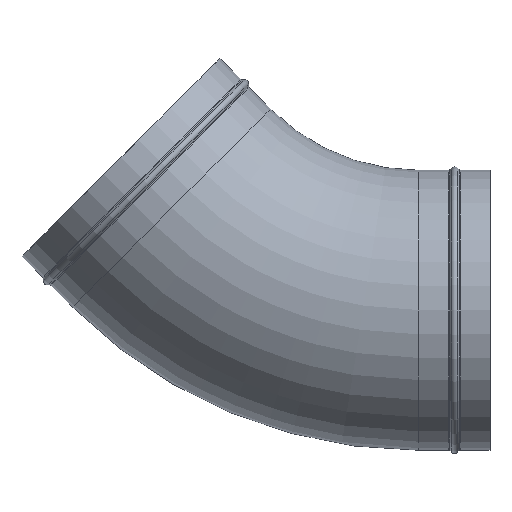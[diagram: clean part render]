
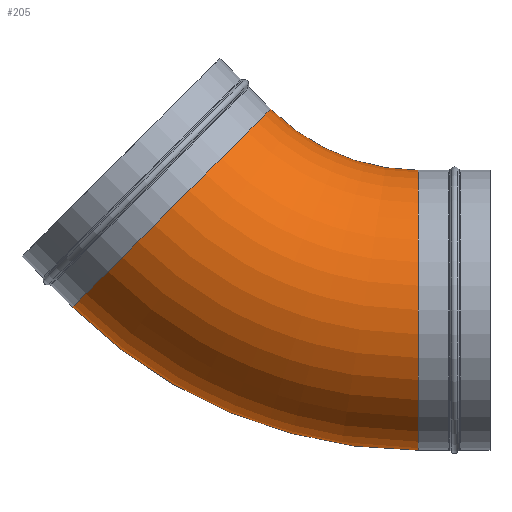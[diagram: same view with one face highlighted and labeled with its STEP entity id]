
A CAD part, top view. The second image highlights one B-rep face of the part: STEP entity #205.
In plain terms, the highlighted toroidal (fillet/blend) face has major radius 340 mm and minor radius 136.5 mm.
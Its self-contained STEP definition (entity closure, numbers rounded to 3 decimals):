
#205=ADVANCED_FACE('',(#295),#267,.T.);
#267=TOROIDAL_SURFACE('',#994,340.,136.5);
#295=FACE_OUTER_BOUND('',#355,.T.);
#355=EDGE_LOOP('',(#419,#420,#421,#422,#423,#424));
#419=ORIENTED_EDGE('',*,*,#755,.T.);
#420=ORIENTED_EDGE('',*,*,#756,.T.);
#421=ORIENTED_EDGE('',*,*,#757,.F.);
#422=ORIENTED_EDGE('',*,*,#758,.F.);
#423=ORIENTED_EDGE('',*,*,#759,.F.);
#424=ORIENTED_EDGE('',*,*,#760,.T.);
#683=VERTEX_POINT('',#1510);
#684=VERTEX_POINT('',#1511);
#685=VERTEX_POINT('',#1513);
#686=VERTEX_POINT('',#1515);
#687=VERTEX_POINT('',#1517);
#688=VERTEX_POINT('',#1519);
#755=EDGE_CURVE('',#683,#684,#887,.T.);
#756=EDGE_CURVE('',#684,#685,#888,.T.);
#757=EDGE_CURVE('',#686,#685,#889,.T.);
#758=EDGE_CURVE('',#687,#686,#890,.T.);
#759=EDGE_CURVE('',#688,#687,#891,.T.);
#760=EDGE_CURVE('',#688,#683,#892,.T.);
#887=CIRCLE('',#988,136.5);
#888=CIRCLE('',#989,476.5);
#889=CIRCLE('',#990,136.5);
#890=CIRCLE('',#991,136.5);
#891=CIRCLE('',#992,203.5);
#892=CIRCLE('',#993,136.5);
#988=AXIS2_PLACEMENT_3D('',#1509,#1152,#1153);
#989=AXIS2_PLACEMENT_3D('',#1512,#1154,#1155);
#990=AXIS2_PLACEMENT_3D('',#1514,#1156,#1157);
#991=AXIS2_PLACEMENT_3D('',#1516,#1158,#1159);
#992=AXIS2_PLACEMENT_3D('',#1518,#1160,#1161);
#993=AXIS2_PLACEMENT_3D('',#1520,#1162,#1163);
#994=AXIS2_PLACEMENT_3D('',#1521,#1164,#1165);
#1152=DIRECTION('',(0.707,-0.707,0.));
#1153=DIRECTION('',(0.,0.,1.));
#1154=DIRECTION('',(0.,0.,1.));
#1155=DIRECTION('',(-0.707,-0.707,0.));
#1156=DIRECTION('',(1.,0.,0.));
#1157=DIRECTION('',(0.,0.,1.));
#1158=DIRECTION('',(1.,0.,0.));
#1159=DIRECTION('',(0.,1.,0.));
#1160=DIRECTION('',(0.,0.,1.));
#1161=DIRECTION('',(-0.707,-0.707,0.));
#1162=DIRECTION('',(0.707,-0.707,0.));
#1163=DIRECTION('',(0.707,0.707,0.));
#1164=DIRECTION('',(0.,0.,1.));
#1165=DIRECTION('',(-0.707,-0.707,0.));
#1509=CARTESIAN_POINT('',(-240.416,-240.416,0.));
#1510=CARTESIAN_POINT('',(-240.416,-240.416,136.5));
#1511=CARTESIAN_POINT('',(-336.936,-336.936,0.));
#1512=CARTESIAN_POINT('',(0.,0.,0.));
#1513=CARTESIAN_POINT('',(0.,-476.5,0.));
#1514=CARTESIAN_POINT('',(0.,-340.,0.));
#1515=CARTESIAN_POINT('',(0.,-340.,136.5));
#1516=CARTESIAN_POINT('',(0.,-340.,0.));
#1517=CARTESIAN_POINT('',(0.,-203.5,0.));
#1518=CARTESIAN_POINT('',(0.,0.,0.));
#1519=CARTESIAN_POINT('',(-143.896,-143.896,0.));
#1520=CARTESIAN_POINT('',(-240.416,-240.416,0.));
#1521=CARTESIAN_POINT('',(0.,0.,0.));
